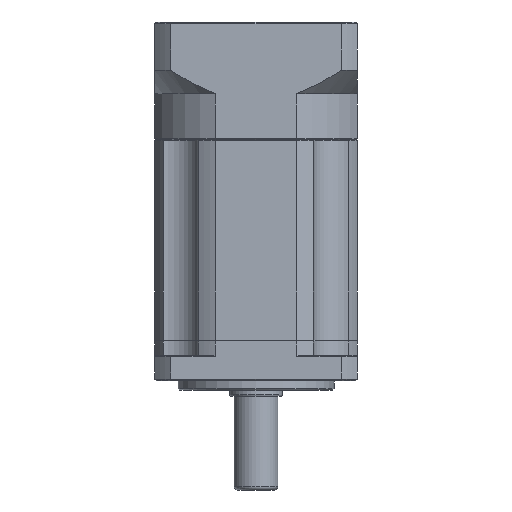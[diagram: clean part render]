
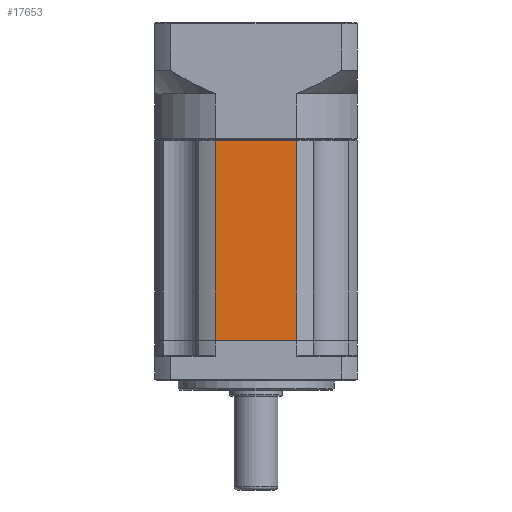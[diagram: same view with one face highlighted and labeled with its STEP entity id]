
A CAD part, front view. The second image highlights one B-rep face of the part: STEP entity #17653.
In plain terms, the highlighted planar face has unit normal (0, -1, 0).
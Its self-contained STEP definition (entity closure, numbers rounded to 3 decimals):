
#5875 = DIRECTION ( 'NONE',  ( 0., 1., 0. ) ) ;
#9580 = CARTESIAN_POINT ( 'NONE',  ( -28.395, 4.23, -19.145 ) ) ;
#13251 = LINE ( 'NONE', #111408, #38680 ) ;
#15021 = CARTESIAN_POINT ( 'NONE',  ( -28.395, 4.23, -18.945 ) ) ;
#16341 = CARTESIAN_POINT ( 'NONE',  ( -28.395, 4.23, -18.945 ) ) ;
#17653 = ADVANCED_FACE ( 'NONE', ( #69507 ), #119969, .F. ) ;
#24643 = DIRECTION ( 'NONE',  ( 0., 0., 1. ) ) ;
#25019 = VECTOR ( 'NONE', #67288, 1000. ) ;
#27094 = EDGE_CURVE ( 'NONE', #119717, #89248, #118780, .T. ) ;
#28221 = VERTEX_POINT ( 'NONE', #9580 ) ;
#30078 = ORIENTED_EDGE ( 'NONE', *, *, #113207, .F. ) ;
#30725 = VECTOR ( 'NONE', #102644, 1000. ) ;
#34573 = VERTEX_POINT ( 'NONE', #112835 ) ;
#38680 = VECTOR ( 'NONE', #72752, 1000. ) ;
#41104 = CARTESIAN_POINT ( 'NONE',  ( -28.395, 4.23, -83.245 ) ) ;
#47793 = AXIS2_PLACEMENT_3D ( 'NONE', #15021, #5875, #24643 ) ;
#48142 = EDGE_CURVE ( 'NONE', #34573, #119717, #105348, .T. ) ;
#56969 = ORIENTED_EDGE ( 'NONE', *, *, #48142, .T. ) ;
#57255 = CARTESIAN_POINT ( 'NONE',  ( -28.395, 4.23, -83.245 ) ) ;
#57511 = ORIENTED_EDGE ( 'NONE', *, *, #27094, .T. ) ;
#63509 = DIRECTION ( 'NONE',  ( 0., 0., -1. ) ) ;
#67288 = DIRECTION ( 'NONE',  ( 1., 0., 0. ) ) ;
#69507 = FACE_OUTER_BOUND ( 'NONE', #121320, .T. ) ;
#72752 = DIRECTION ( 'NONE',  ( -1., 0., 0. ) ) ;
#74382 = CARTESIAN_POINT ( 'NONE',  ( -54.376, 4.23, -18.945 ) ) ;
#75685 = LINE ( 'NONE', #16341, #78661 ) ;
#78661 = VECTOR ( 'NONE', #63509, 1000. ) ;
#89248 = VERTEX_POINT ( 'NONE', #41104 ) ;
#91489 = EDGE_CURVE ( 'NONE', #28221, #34573, #13251, .T. ) ;
#102644 = DIRECTION ( 'NONE',  ( 0., 0., -1. ) ) ;
#105348 = LINE ( 'NONE', #74382, #30725 ) ;
#111408 = CARTESIAN_POINT ( 'NONE',  ( -54.376, 4.23, -19.145 ) ) ;
#112835 = CARTESIAN_POINT ( 'NONE',  ( -54.376, 4.23, -19.145 ) ) ;
#113207 = EDGE_CURVE ( 'NONE', #28221, #89248, #75685, .T. ) ;
#115614 = ORIENTED_EDGE ( 'NONE', *, *, #91489, .T. ) ;
#118006 = CARTESIAN_POINT ( 'NONE',  ( -54.376, 4.23, -83.245 ) ) ;
#118780 = LINE ( 'NONE', #57255, #25019 ) ;
#119717 = VERTEX_POINT ( 'NONE', #118006 ) ;
#119969 = PLANE ( 'NONE',  #47793 ) ;
#121320 = EDGE_LOOP ( 'NONE', ( #30078, #115614, #56969, #57511 ) ) ;
